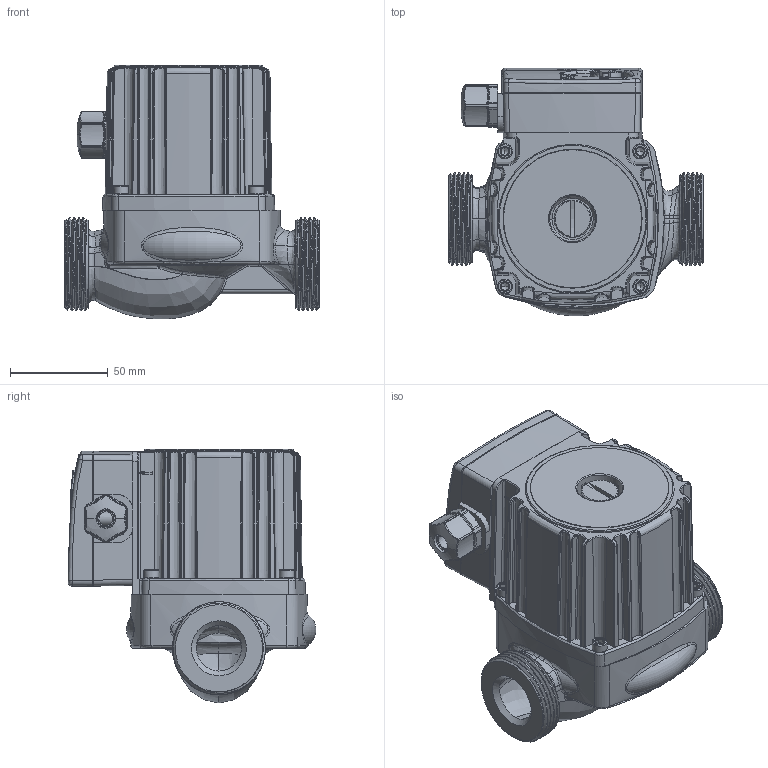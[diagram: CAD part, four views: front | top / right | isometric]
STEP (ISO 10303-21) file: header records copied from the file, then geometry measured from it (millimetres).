
FILE_DESCRIPTION(('STEP AP242'), '1');
FILE_NAME('VRS256EA.13', '2025-10-08T11:48:03', (''), (''), 'C3D Converter', 'C3D Toolkit', '');
FILE_SCHEMA(('AP242_MANAGED_MODEL_BASED_3D_ENGINEERING_MIM_LF { 1 0 10303 442 1 1 4 }'));
Length unit declared in the file: millimetre
Products named in the file (1): 25-4EA-130_ASM
Bounding box: 130 x 126.46 x 129.59 mm (x, y, z)
Volume: 271450.3 mm3; surface area: 163915.1 mm2
Topology: 5 solids, 11 shells, 2077 faces, 5278 edges, 3180 vertices
Faces by surface type: bspline 609, cylinder 560, plane 526, torus 237, cone 91, sphere 49, extrusion 5
Full cylindrical faces by diameter (mm): 3.3 x1, 4 x4, 4.2 x4, 4.5 x3, 5 x7, 5.5 x4, 7 x3, 7.5 x5, 7.6 x4, 8 x2, 9 x2, 10 x2, 10.3 x1, 12 x2, 16 x1, 17.1 x1, 18 x1, 19 x2, 21 x1, 23.5 x1, 25.8 x1, 26 x1, 28 x1, 30 x1, 35.5 x1, 38.25 x1, 39 x1, 70.5 x1, 71 x1, 74 x1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
Entity records: 238373 total; most frequent: CARTESIAN_POINT 179968, ORIENTED_EDGE 10104, DIRECTION 6373, EDGE_CURVE 5052, VERTEX_POINT 3158, B_SPLINE_CURVE_WITH_KNOTS 2577, AXIS2_PLACEMENT_3D 2510, EDGE_LOOP 2263
